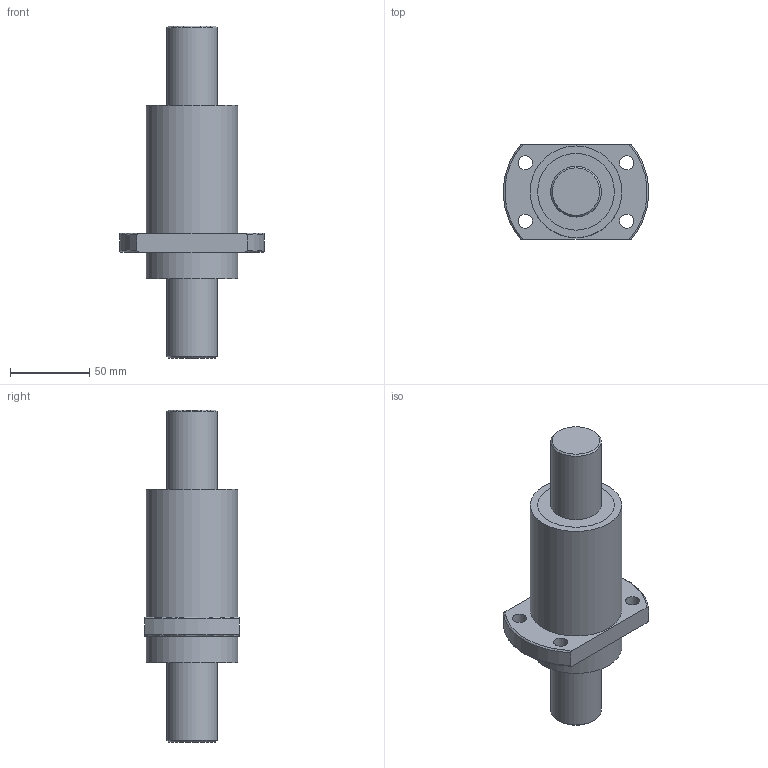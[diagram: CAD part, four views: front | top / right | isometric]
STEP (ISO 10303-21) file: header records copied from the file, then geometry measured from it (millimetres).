
FILE_DESCRIPTION(/* description */ (''),/* implementation_level */ '2;1');
FILE_NAME(/* name */ 'SFY32321.stp',/* time_stamp */ '2016-08-11T13:18:04+08:00',/* author */ (''),/* organization */ (''),/* preprocessor_version */ 'ST-DEVELOPER v11',/* originating_system */ 'SIEMENS UGS NX 6.0',/* authorisation */ '');
FILE_SCHEMA (('CONFIG_CONTROL_DESIGN'));
Length unit declared in the file: millimetre
Products named in the file (1): fannD4BFpz9m
Bounding box: 91.71 x 60 x 210 mm (x, y, z)
Volume: 397681.1 mm3; surface area: 73157.2 mm2
Topology: 4 solids, 4 shells, 50 faces, 98 edges, 67 vertices
Faces by surface type: cylinder 23, plane 21, torus 4, cone 2
Full cylindrical faces by diameter (mm): 9 x4, 32 x4, 42.7 x4, 48.5 x4, 50 x3, 58 x2
Entity records: 1370 total; most frequent: CARTESIAN_POINT 318, DIRECTION 216, ORIENTED_EDGE 136, AXIS2_PLACEMENT_3D 104, EDGE_LOOP 98, FACE_BOUND 88, EDGE_CURVE 68, VERTEX_POINT 60
